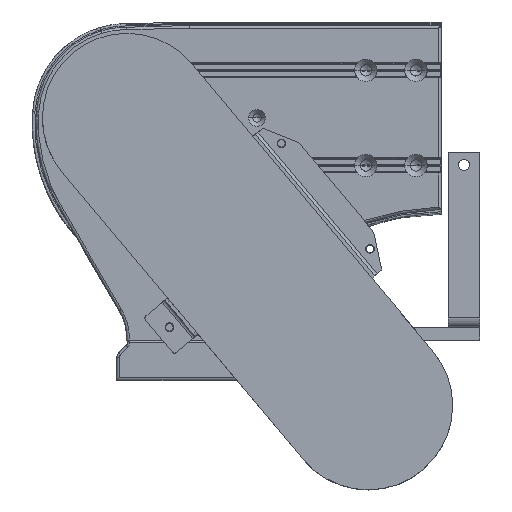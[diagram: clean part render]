
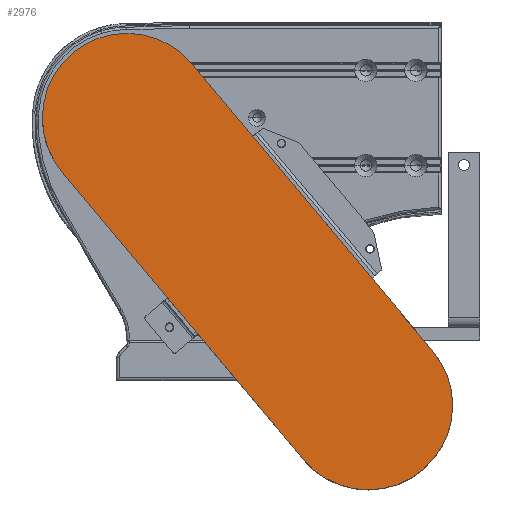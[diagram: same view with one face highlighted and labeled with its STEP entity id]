
A CAD part, top view. The second image highlights one B-rep face of the part: STEP entity #2976.
In plain terms, the highlighted planar face has unit normal (0, 0, 1).
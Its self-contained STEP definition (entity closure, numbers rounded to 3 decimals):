
#161 = EDGE_CURVE ( 'NONE', #20764, #13486, #3223, .T. ) ;
#382 = CARTESIAN_POINT ( 'NONE',  ( 192.835, -229.814, 244. ) ) ;
#401 = CIRCLE ( 'NONE', #12389, 67.5 ) ;
#634 = ORIENTED_EDGE ( 'NONE', *, *, #3995, .T. ) ;
#735 = VECTOR ( 'NONE', #11233, 1000. ) ;
#1748 = EDGE_CURVE ( 'NONE', #13486, #24423, #9006, .T. ) ;
#2038 = CARTESIAN_POINT ( 'NONE',  ( 51.708, 43.388, 244. ) ) ;
#2976 = ADVANCED_FACE ( 'NONE', ( #11758 ), #17105, .T. ) ;
#3100 = EDGE_LOOP ( 'NONE', ( #634, #20721, #8551, #16655, #17714 ) ) ;
#3223 = LINE ( 'NONE', #27299, #735 ) ;
#3995 = EDGE_CURVE ( 'NONE', #22041, #17852, #13464, .T. ) ;
#4422 = DIRECTION ( 'NONE',  ( -0.643, 0.766, 0. ) ) ;
#5630 = CARTESIAN_POINT ( 'NONE',  ( 51.708, 43.388, 244. ) ) ;
#8551 = ORIENTED_EDGE ( 'NONE', *, *, #161, .T. ) ;
#9006 = CIRCLE ( 'NONE', #12673, 67.5 ) ;
#10216 = CARTESIAN_POINT ( 'NONE',  ( 0., 0., 244. ) ) ;
#10984 = CARTESIAN_POINT ( 'NONE',  ( 0., 0., 244. ) ) ;
#11233 = DIRECTION ( 'NONE',  ( 0.643, -0.766, 0. ) ) ;
#11363 = CARTESIAN_POINT ( 'NONE',  ( -51.708, -43.388, 244. ) ) ;
#11590 = EDGE_CURVE ( 'NONE', #24423, #22041, #25160, .T. ) ;
#11758 = FACE_OUTER_BOUND ( 'NONE', #3100, .T. ) ;
#12389 = AXIS2_PLACEMENT_3D ( 'NONE', #28104, #16795, #21376 ) ;
#12673 = AXIS2_PLACEMENT_3D ( 'NONE', #382, #14291, #27767 ) ;
#13464 = CIRCLE ( 'NONE', #26317, 67.5 ) ;
#13486 = VERTEX_POINT ( 'NONE', #22849 ) ;
#14134 = CARTESIAN_POINT ( 'NONE',  ( -67.5, 0., 244. ) ) ;
#14291 = DIRECTION ( 'NONE',  ( 0., 0., 1. ) ) ;
#15494 = AXIS2_PLACEMENT_3D ( 'NONE', #10216, #17003, #19078 ) ;
#16655 = ORIENTED_EDGE ( 'NONE', *, *, #1748, .T. ) ;
#16795 = DIRECTION ( 'NONE',  ( 0., 0., 1. ) ) ;
#17003 = DIRECTION ( 'NONE',  ( 0., 0., 1. ) ) ;
#17105 = PLANE ( 'NONE',  #15494 ) ;
#17714 = ORIENTED_EDGE ( 'NONE', *, *, #11590, .T. ) ;
#17852 = VERTEX_POINT ( 'NONE', #14134 ) ;
#19078 = DIRECTION ( 'NONE',  ( 1., 0., 0. ) ) ;
#19491 = CARTESIAN_POINT ( 'NONE',  ( 244.543, -186.426, 244. ) ) ;
#20721 = ORIENTED_EDGE ( 'NONE', *, *, #24700, .T. ) ;
#20764 = VERTEX_POINT ( 'NONE', #11363 ) ;
#21376 = DIRECTION ( 'NONE',  ( 1., 0., 0. ) ) ;
#22041 = VERTEX_POINT ( 'NONE', #5630 ) ;
#22315 = VECTOR ( 'NONE', #4422, 1000. ) ;
#22334 = DIRECTION ( 'NONE',  ( 0., 0., 1. ) ) ;
#22849 = CARTESIAN_POINT ( 'NONE',  ( 141.127, -273.202, 244. ) ) ;
#24423 = VERTEX_POINT ( 'NONE', #19491 ) ;
#24514 = DIRECTION ( 'NONE',  ( 1., 0., 0. ) ) ;
#24700 = EDGE_CURVE ( 'NONE', #17852, #20764, #401, .T. ) ;
#25160 = LINE ( 'NONE', #2038, #22315 ) ;
#26317 = AXIS2_PLACEMENT_3D ( 'NONE', #10984, #22334, #24514 ) ;
#27299 = CARTESIAN_POINT ( 'NONE',  ( -51.708, -43.388, 244. ) ) ;
#27767 = DIRECTION ( 'NONE',  ( 1., 0., 0. ) ) ;
#28104 = CARTESIAN_POINT ( 'NONE',  ( 0., 0., 244. ) ) ;
